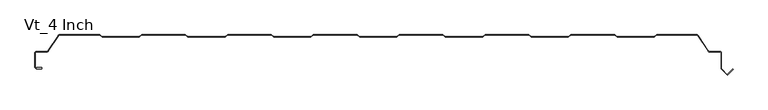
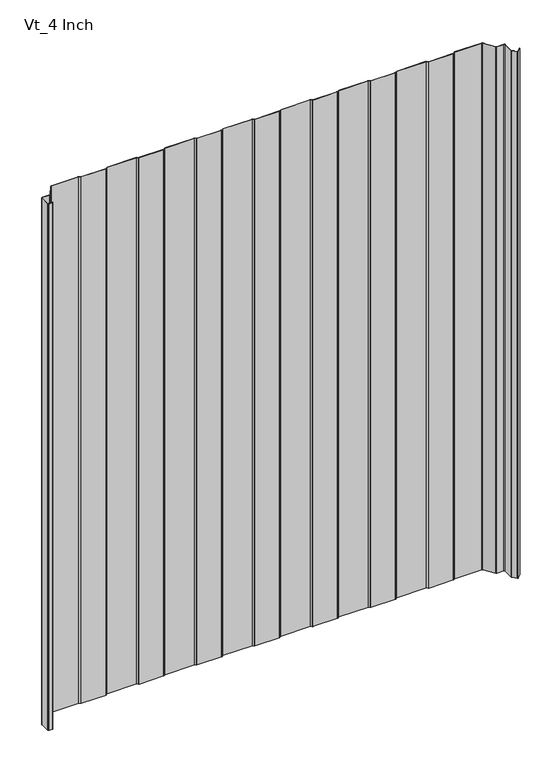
"""IFC4 building model written with IfcOpenShell, lengths in millimetres: plate geometry, KIP_R19_CP_KingSeam_Vt_Roof Panel : Vt_4 Inch."""

from ifc_helpers import new_model, si_unit, point, frame_2d, origin, origin_with_axes, place, context, project, spatial, polyline, circle_curve, trimmed, segment, composite_curve, outline, extrude, source, transform, mapped, element, save


def vt_4_inch_5771786f(model_context):
    return source(origin(), model_context, "Body", "SweptSolid", [
        extrude(outline(composite_curve([segment(polyline([(353.2057294, -101.8158084), (349.7460358, -99.315881), (285.172478, -99.315881), (281.7127828, -101.815809)]), True, "CONTINUOUS"), segment(trimmed(circle_curve(frame_2d((280.8342564, -100.6000005)), 1.4999996), [point((281.7127828, -101.815809))], [point((280.833285, -102.0999998))], False, "CARTESIAN"), True, "CONTINUOUS"), segment(polyline([(280.833285, -102.0999998), (227.0842565, -102.0999998)]), True, "CONTINUOUS"), segment(trimmed(circle_curve(frame_2d((227.0842565, -100.5999998)), 1.5), [point((227.0842565, -102.0999998))], [point((226.2057297, -101.8158085))], False, "CARTESIAN"), True, "CONTINUOUS"), segment(polyline([(226.2057297, -101.8158085), (222.7460351, -99.3158804), (158.1724783, -99.3158804), (154.7127834, -101.8158085)]), True, "CONTINUOUS"), segment(trimmed(circle_curve(frame_2d((153.8342567, -100.5999998)), 1.4999999), [point((154.7127834, -101.8158085))], [point((153.8332853, -102.0999994))], False, "CARTESIAN"), True, "CONTINUOUS"), segment(polyline([(153.8332853, -102.0999994), (100.0842567, -102.0999994)]), True, "CONTINUOUS"), segment(trimmed(circle_curve(frame_2d((100.0842567, -100.5999995)), 1.4999999), [point((100.0842567, -102.0999994))], [point((99.20573, -101.8158082))], False, "CARTESIAN"), True, "CONTINUOUS"), segment(polyline([(99.20573, -101.8158082), (95.7460356, -99.3158804), (31.1724783, -99.3158804), (27.7127834, -101.8158085)]), True, "CONTINUOUS"), segment(trimmed(circle_curve(frame_2d((26.8342567, -100.5999998)), 1.5), [point((27.7127834, -101.8158085))], [point((26.8332853, -102.0999995))], False, "CARTESIAN"), True, "CONTINUOUS"), segment(polyline([(26.8332853, -102.0999995), (-26.9157433, -102.0999995)]), True, "CONTINUOUS"), segment(trimmed(circle_curve(frame_2d((-26.9157433, -100.5999995)), 1.5), [point((-26.9157433, -102.0999995))], [point((-27.79427, -101.8158082))], False, "CARTESIAN"), True, "CONTINUOUS"), segment(polyline([(-27.79427, -101.8158082), (-31.2539644, -99.3158804), (-95.8275217, -99.3158804), (-99.2872166, -101.8158085)]), True, "CONTINUOUS"), segment(trimmed(circle_curve(frame_2d((-100.1657433, -100.5999998)), 1.5), [point((-99.2872166, -101.8158085))], [point((-100.1667147, -102.0999995))], False, "CARTESIAN"), True, "CONTINUOUS"), segment(polyline([(-100.1667147, -102.0999995), (-153.9157432, -102.0999995)]), True, "CONTINUOUS"), segment(trimmed(circle_curve(frame_2d((-153.9157432, -100.5999995)), 1.5), [point((-153.9157432, -102.0999995))], [point((-154.79427, -101.8158082))], False, "CARTESIAN"), True, "CONTINUOUS"), segment(polyline([(-154.79427, -101.8158082), (-158.2539643, -99.3158804), (-222.8275216, -99.3158804), (-226.287216, -101.8158087)]), True, "CONTINUOUS"), segment(trimmed(circle_curve(frame_2d((-227.1657431, -100.5999998)), 1.5000003), [point((-226.287216, -101.8158087))], [point((-227.1667145, -102.0999999))], False, "CARTESIAN"), True, "CONTINUOUS"), segment(polyline([(-227.1667145, -102.0999999), (-280.9157431, -102.0999999)]), True, "CONTINUOUS"), segment(trimmed(circle_curve(frame_2d((-280.9157431, -100.5999998)), 1.5), [point((-280.9157431, -102.0999999))], [point((-281.7942699, -101.8158085))], False, "CARTESIAN"), True, "CONTINUOUS"), segment(polyline([(-281.7942699, -101.8158085), (-285.2539646, -99.3158804), (-349.8275214, -99.3158804), (-353.2872163, -101.8158085)]), True, "CONTINUOUS"), segment(trimmed(circle_curve(frame_2d((-354.165743, -100.5999999)), 1.4999999), [point((-353.2872163, -101.8158085))], [point((-354.1667144, -102.0999995))], False, "CARTESIAN"), True, "CONTINUOUS"), segment(polyline([(-354.1667144, -102.0999995), (-407.9157429, -102.0999995)]), True, "CONTINUOUS"), segment(trimmed(circle_curve(frame_2d((-407.9157429, -100.5999994)), 1.5000001), [point((-407.9157429, -102.0999995))], [point((-408.7942697, -101.8158081))], False, "CARTESIAN"), True, "CONTINUOUS"), segment(polyline([(-408.7942697, -101.8158081), (-412.2539635, -99.3158806), (-471.4278921, -99.3158806)]), True, "CONTINUOUS"), segment(trimmed(circle_curve(frame_2d((-471.4278921, -101.3158804)), 1.9999997), [point((-471.4278921, -99.3158806))], [point((-473.0959478, -100.2124361))], True, "CARTESIAN"), True, "CONTINUOUS"), segment(polyline([(-473.0959478, -100.2124361), (-488.2993864, -123.1951861)]), True, "CONTINUOUS"), segment(trimmed(circle_curve(frame_2d((-490.3844563, -121.8158807)), 2.4999999), [point((-488.2993864, -123.1951861))], [point((-490.3844563, -124.3158806))], False, "CARTESIAN"), True, "CONTINUOUS"), segment(polyline([(-490.3844563, -124.3158806), (-505.9407428, -124.3158806)]), True, "CONTINUOUS"), segment(trimmed(circle_curve(frame_2d((-505.9407428, -125.9158806)), 1.6), [point((-505.9407428, -124.3158806))], [point((-507.5407428, -125.9158806))], True, "CARTESIAN"), True, "CONTINUOUS"), segment(polyline([(-507.5407428, -125.9158806), (-507.5407428, -146.7669597)]), True, "CONTINUOUS"), segment(trimmed(circle_curve(frame_2d((-506.3507428, -146.7669597)), 1.19), [point((-507.5407428, -146.7669597))], [point((-507.1921999, -147.6084168))], True, "CARTESIAN"), True, "CONTINUOUS"), segment(polyline([(-507.1921999, -147.6084168), (-506.182179, -148.6184377)]), True, "CONTINUOUS"), segment(trimmed(circle_curve(frame_2d((-505.3407219, -147.7769807)), 1.19), [point((-506.182179, -148.6184377))], [point((-505.3407219, -148.9669807))], True, "CARTESIAN"), True, "CONTINUOUS"), segment(polyline([(-505.3407219, -148.9669807), (-498.6107428, -148.9669807)]), True, "CONTINUOUS"), segment(trimmed(circle_curve(frame_2d((-498.6107428, -148.5669807)), 0.4), [point((-498.6107428, -148.9669807))], [point((-498.6107428, -148.1669807))], True, "CARTESIAN"), True, "CONTINUOUS"), segment(polyline([(-498.6107428, -148.1669807), (-505.3407219, -148.1669807), (-505.3407219, -147.3669807), (-498.6107428, -147.3669807)]), True, "CONTINUOUS"), segment(trimmed(circle_curve(frame_2d((-498.6107428, -148.4169807)), 1.05), [point((-498.6107428, -147.3669807))], [point((-498.6107428, -149.4669807))], False, "CARTESIAN"), True, "CONTINUOUS"), segment(polyline([(-498.6107428, -149.4669807), (-505.3407219, -149.4669807)]), True, "CONTINUOUS"), segment(trimmed(circle_curve(frame_2d((-505.3407219, -147.7769807)), 1.69), [point((-505.3407219, -149.4669807))], [point((-506.5357325, -148.971991))], False, "CARTESIAN"), True, "CONTINUOUS"), segment(polyline([(-506.5357325, -148.971991), (-507.5457533, -147.96197)]), True, "CONTINUOUS"), segment(trimmed(circle_curve(frame_2d((-506.3507428, -146.7669597)), 1.6899998), [point((-507.5457533, -147.96197))], [point((-508.0407427, -146.7669597))], False, "CARTESIAN"), True, "CONTINUOUS"), segment(polyline([(-508.0407427, -146.7669597), (-508.0407427, -125.9158805)]), True, "CONTINUOUS"), segment(trimmed(circle_curve(frame_2d((-505.9407428, -125.9158805)), 2.0999998), [point((-508.0407427, -125.9158805))], [point((-505.9407428, -123.8158807))], False, "CARTESIAN"), True, "CONTINUOUS"), segment(polyline([(-505.9407428, -123.8158807), (-490.3844563, -123.8158807)]), True, "CONTINUOUS"), segment(trimmed(circle_curve(frame_2d((-490.3844563, -121.8158807)), 2.0), [point((-490.3844563, -123.8158807))], [point((-488.7164003, -122.919325))], True, "CARTESIAN"), True, "CONTINUOUS"), segment(polyline([(-488.7164003, -122.919325), (-473.512962, -99.9365749)]), True, "CONTINUOUS"), segment(trimmed(circle_curve(frame_2d((-471.4278921, -101.3158804)), 2.5), [point((-473.512962, -99.9365749))], [point((-471.4278921, -98.8158803))], False, "CARTESIAN"), True, "CONTINUOUS"), segment(polyline([(-471.4278921, -98.8158803), (-412.2539644, -98.8158803), (-408.7942697, -101.3158086)]), True, "CONTINUOUS"), segment(trimmed(circle_curve(frame_2d((-407.9157429, -100.0999998)), 1.5000002), [point((-408.7942697, -101.3158086))], [point((-407.9157429, -101.5999999))], True, "CARTESIAN"), True, "CONTINUOUS"), segment(polyline([(-407.9157429, -101.5999999), (-354.1657429, -101.5999999)]), True, "CONTINUOUS"), segment(trimmed(circle_curve(frame_2d((-354.1657429, -100.0999999)), 1.5), [point((-354.1657429, -101.5999999))], [point((-353.2872161, -101.3158086))], True, "CARTESIAN"), True, "CONTINUOUS"), segment(polyline([(-353.2872161, -101.3158086), (-349.8275214, -98.8158803), (-285.2539646, -98.8158803), (-281.7942699, -101.3158087)]), True, "CONTINUOUS"), segment(trimmed(circle_curve(frame_2d((-280.9157431, -100.1000001)), 1.5), [point((-281.7942699, -101.3158087))], [point((-280.9157431, -101.6000001))], True, "CARTESIAN"), True, "CONTINUOUS"), segment(polyline([(-280.9157431, -101.6000001), (-227.1657431, -101.6000001)]), True, "CONTINUOUS"), segment(trimmed(circle_curve(frame_2d((-227.1657431, -100.1000001)), 1.5), [point((-227.1657431, -101.6000001))], [point((-226.2872164, -101.3158088))], True, "CARTESIAN"), True, "CONTINUOUS"), segment(polyline([(-226.2872164, -101.3158088), (-222.8275211, -98.8158803), (-158.2539647, -98.8158803), (-154.79427, -101.3158086)]), True, "CONTINUOUS"), segment(trimmed(circle_curve(frame_2d((-153.9157433, -100.0999999)), 1.5), [point((-154.79427, -101.3158086))], [point((-153.9157433, -101.5999999))], True, "CARTESIAN"), True, "CONTINUOUS"), segment(polyline([(-153.9157433, -101.5999999), (-100.1657433, -101.5999999)]), True, "CONTINUOUS"), segment(trimmed(circle_curve(frame_2d((-100.1657433, -100.1000001)), 1.4999998), [point((-100.1657433, -101.5999999))], [point((-99.2872167, -101.3158087))], True, "CARTESIAN"), True, "CONTINUOUS"), segment(polyline([(-99.2872167, -101.3158087), (-95.8275213, -98.8158803), (-31.2539649, -98.8158803), (-27.7942701, -101.3158086)]), True, "CONTINUOUS"), segment(trimmed(circle_curve(frame_2d((-26.9157433, -100.0999999)), 1.5000001), [point((-27.7942701, -101.3158086))], [point((-26.9157433, -101.6))], True, "CARTESIAN"), True, "CONTINUOUS"), segment(polyline([(-26.9157433, -101.6), (26.8342567, -101.6)]), True, "CONTINUOUS"), segment(trimmed(circle_curve(frame_2d((26.8342567, -100.1000001)), 1.4999999), [point((26.8342567, -101.6))], [point((27.7127833, -101.3158087))], True, "CARTESIAN"), True, "CONTINUOUS"), segment(polyline([(27.7127833, -101.3158087), (31.1724787, -98.8158803), (95.7460351, -98.8158803), (99.20573, -101.3158084)]), True, "CONTINUOUS"), segment(trimmed(circle_curve(frame_2d((100.0842567, -100.0999998)), 1.4999999), [point((99.20573, -101.3158084))], [point((100.0842567, -101.5999997))], True, "CARTESIAN"), True, "CONTINUOUS"), segment(polyline([(100.0842567, -101.5999997), (153.8342567, -101.5999997)]), True, "CONTINUOUS"), segment(trimmed(circle_curve(frame_2d((153.8342567, -100.0999996)), 1.5), [point((153.8342567, -101.5999997))], [point((154.7127834, -101.3158084))], True, "CARTESIAN"), True, "CONTINUOUS"), segment(polyline([(154.7127834, -101.3158084), (158.1724783, -98.8158803), (222.7460351, -98.8158803), (226.2057297, -101.3158084)]), True, "CONTINUOUS"), segment(trimmed(circle_curve(frame_2d((227.0842565, -100.0999997)), 1.5), [point((226.2057297, -101.3158084))], [point((227.0842565, -101.5999997))], True, "CARTESIAN"), True, "CONTINUOUS"), segment(polyline([(227.0842565, -101.5999997), (280.8342564, -101.5999997)]), True, "CONTINUOUS"), segment(trimmed(circle_curve(frame_2d((280.8342564, -100.1000002)), 1.4999994), [point((280.8342564, -101.5999997))], [point((281.7127826, -101.3158086))], True, "CARTESIAN"), True, "CONTINUOUS"), segment(polyline([(281.7127826, -101.3158086), (285.1724789, -98.8158803), (349.7460348, -98.8158803), (353.2057295, -101.3158083)]), True, "CONTINUOUS"), segment(trimmed(circle_curve(frame_2d((354.0842562, -100.0999997)), 1.4999999), [point((353.2057295, -101.3158083))], [point((354.0842562, -101.5999996))], True, "CARTESIAN"), True, "CONTINUOUS"), segment(polyline([(354.0842562, -101.5999996), (407.8342561, -101.5999996)]), True, "CONTINUOUS"), segment(trimmed(circle_curve(frame_2d((407.8342561, -100.0999999)), 1.4999998), [point((407.8342561, -101.5999996))], [point((408.7127826, -101.3158084))], True, "CARTESIAN"), True, "CONTINUOUS"), segment(polyline([(408.7127826, -101.3158084), (412.1724777, -98.8158803), (471.346405, -98.8158803)]), True, "CONTINUOUS"), segment(trimmed(circle_curve(frame_2d((471.346405, -101.3158801)), 2.4999998), [point((471.346405, -98.8158803))], [point((473.4314747, -99.9365748))], False, "CARTESIAN"), True, "CONTINUOUS"), segment(polyline([(473.4314747, -99.9365748), (488.6349132, -122.919325)]), True, "CONTINUOUS"), segment(trimmed(circle_curve(frame_2d((490.3029691, -121.8158806)), 2.0), [point((488.6349132, -122.919325))], [point((490.3029691, -123.8158806))], True, "CARTESIAN"), True, "CONTINUOUS"), segment(polyline([(490.3029691, -123.8158806), (505.8592557, -123.8158806)]), True, "CONTINUOUS"), segment(trimmed(circle_curve(frame_2d((505.8592557, -125.9158807)), 2.1000001), [point((505.8592557, -123.8158806))], [point((507.9592557, -125.9158807))], False, "CARTESIAN"), True, "CONTINUOUS"), segment(polyline([(507.9592557, -125.9158807), (507.9592557, -148.8505141)]), True, "CONTINUOUS"), segment(trimmed(circle_curve(frame_2d((509.4592557, -148.8505141)), 1.5), [point((507.9592557, -148.8505141))], [point((508.3985956, -149.9111742))], True, "CARTESIAN"), True, "CONTINUOUS"), segment(polyline([(508.3985956, -149.9111742), (515.9184168, -157.4309954)]), True, "CONTINUOUS"), segment(trimmed(circle_curve(frame_2d((516.4443275, -156.4012712)), 1.15625), [point((515.9184168, -157.4309954))], [point((517.2619197, -157.2188634))], True, "CARTESIAN"), True, "CONTINUOUS"), segment(polyline([(517.2619197, -157.2188634), (524.6158302, -149.8649529), (525.1815156, -150.4306383), (517.8276051, -157.7845488)]), True, "CONTINUOUS"), segment(trimmed(circle_curve(frame_2d((516.6962342, -156.653178)), 1.6), [point((517.8276051, -157.7845488))], [point((515.5648634, -157.7845488))], False, "CARTESIAN"), True, "CONTINUOUS"), segment(polyline([(515.5648634, -157.7845488), (508.0450422, -150.2647276)]), True, "CONTINUOUS"), segment(trimmed(circle_curve(frame_2d((509.4592557, -148.8505141)), 2.0), [point((508.0450422, -150.2647276))], [point((507.4592557, -148.8505141))], False, "CARTESIAN"), True, "CONTINUOUS"), segment(polyline([(507.4592557, -148.8505141), (507.4592557, -125.9158807)]), True, "CONTINUOUS"), segment(trimmed(circle_curve(frame_2d((505.8592556, -125.9158807)), 1.6000001), [point((507.4592557, -125.9158807))], [point((505.8592556, -124.3158806))], True, "CARTESIAN"), True, "CONTINUOUS"), segment(polyline([(505.8592556, -124.3158806), (490.3029691, -124.3158806)]), True, "CONTINUOUS"), segment(trimmed(circle_curve(frame_2d((490.3029691, -121.8158806)), 2.4999999), [point((490.3029691, -124.3158806))], [point((488.2178993, -123.1951861))], False, "CARTESIAN"), True, "CONTINUOUS"), segment(polyline([(488.2178993, -123.1951861), (473.0144605, -100.212436)]), True, "CONTINUOUS"), segment(trimmed(circle_curve(frame_2d((471.346405, -101.3158801)), 1.9999995), [point((473.0144605, -100.212436))], [point((471.346405, -99.3158806))], True, "CARTESIAN"), True, "CONTINUOUS"), segment(polyline([(471.346405, -99.3158806), (412.1724777, -99.3158806), (408.7127828, -101.8158088)]), True, "CONTINUOUS"), segment(trimmed(circle_curve(frame_2d((407.8342561, -100.6000001)), 1.5), [point((408.7127828, -101.8158088))], [point((407.8332847, -102.0999997))], False, "CARTESIAN"), True, "CONTINUOUS"), segment(polyline([(407.8332847, -102.0999997), (354.0842561, -102.0999997)]), True, "CONTINUOUS"), segment(trimmed(circle_curve(frame_2d((354.0842561, -100.5999998)), 1.5), [point((354.0842561, -102.0999997))], [point((353.2057294, -101.8158084))], False, "CARTESIAN"), True, "CONTINUOUS")], self_intersect=False)), origin_with_axes(), (0.0, 0.0, 1.0), 1219.2),
    ])


if __name__ == "__main__":
    model = new_model("IFC4")
    model_context = context("Model", 3, world=origin())
    ifc_project = project(units=[si_unit("LENGTHUNIT", "METRE", prefix="MILLI")], contexts=[model_context])
    site = spatial("IfcSite", under=ifc_project)
    building = spatial("IfcBuilding", under=site)
    placement = place(None, origin())
    vt_4_inch_shape = vt_4_inch_5771786f(model_context)
    element("IfcPlate", 1, ObjectType="KIP_R19_CP_KingSeam_Vt_Roof Panel : Vt_4 Inch", at=placement, inside=building, context=model_context, shape_type="MappedRepresentation", body=[
        mapped(vt_4_inch_shape, transform((0.0, 0.0, 0.0), x_axis=(1.0, 0.0, 0.0), y_axis=(0.0, 1.0, 0.0), z_axis=(0.0, 0.0, 1.0))),
    ])
    save(model, "model.ifc")
